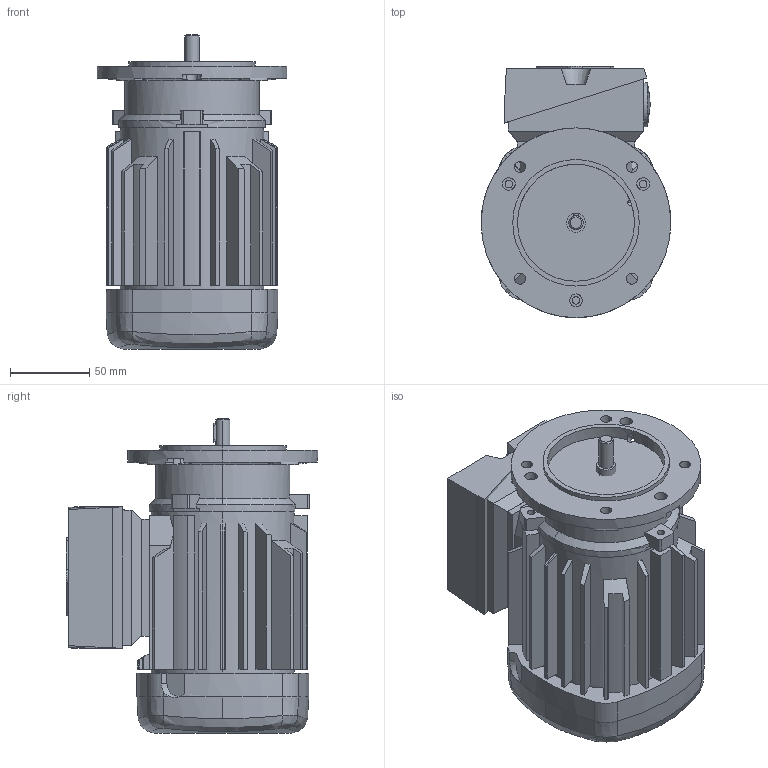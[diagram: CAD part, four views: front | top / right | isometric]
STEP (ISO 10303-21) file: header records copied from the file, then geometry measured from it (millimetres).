
FILE_DESCRIPTION (( 'STEP AP214' ), '1' );
FILE_NAME ('IE3-W41R56_B5FF100.STEP', '2024-10-22T03:28:29', ( '' ), ( '' ), 'SwSTEP 2.0', 'SolidWorks 2023', '' );
FILE_SCHEMA (( 'AUTOMOTIVE_DESIGN' ));
Length unit declared in the file: millimetre
Products named in the file (9): Verschlussschraube_M25; KA05_komplett_Kat_VSS_2xM25; WE_B5K_RWE_Kat_09x20 (W21R56); IE3-W41R56_B5FF100; RG 05_Kat; KD05_Kat; KA05_Kat; LHB_Kat_LHB05; LF_FF_B5K_klein_LF06 FF100
Assembly tree (9 placements, depth 3):
  IE3-W41R56_B5FF100
    RG 05_Kat
    LHB_Kat_LHB05
    LF_FF_B5K_klein_LF06 FF100
    WE_B5K_RWE_Kat_09x20 (W21R56)
    KA05_komplett_Kat_VSS_2xM25
      KA05_Kat
      KD05_Kat
      Verschlussschraube_M25  x2
Bounding box: 120 x 159 x 199 mm (x, y, z)
Volume: 1799971.1 mm3; surface area: 207985.8 mm2
Topology: 8 solids, 8 shells, 401 faces, 1049 edges, 687 vertices
Faces by surface type: plane 213, cylinder 129, cone 45, bspline 8, sphere 4, torus 2
Entity records: 13087 total; most frequent: CARTESIAN_POINT 3289, ORIENTED_EDGE 2020, DIRECTION 1957, EDGE_CURVE 1010, AXIS2_PLACEMENT_3D 695, VERTEX_POINT 661, LINE 567, VECTOR 567
